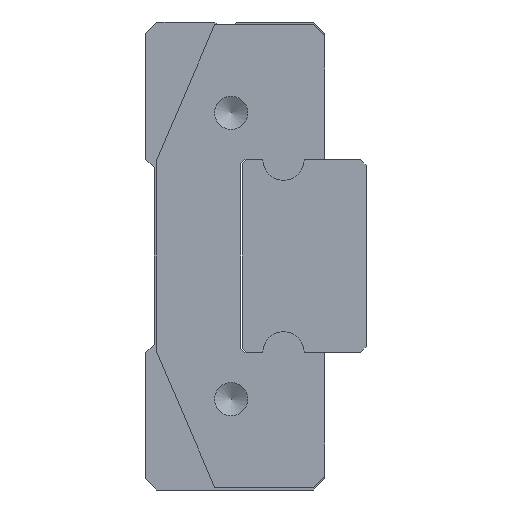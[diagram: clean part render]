
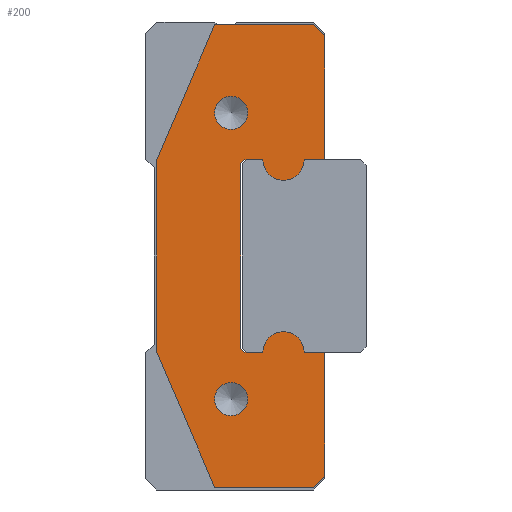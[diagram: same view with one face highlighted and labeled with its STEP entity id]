
A CAD part, left-side view. The second image highlights one B-rep face of the part: STEP entity #200.
In plain terms, the highlighted planar face has unit normal (-1, 0, 0) as drawn and (0, 0, 1) by its records, which use the part's own axes.
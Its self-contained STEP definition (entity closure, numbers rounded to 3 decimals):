
#200 = ADVANCED_FACE( '', ( #456, #457, #458 ), #459, .T. );
#456 = FACE_BOUND( '', #856, .T. );
#457 = FACE_BOUND( '', #857, .T. );
#458 = FACE_OUTER_BOUND( '', #858, .T. );
#459 = PLANE( '', #859 );
#856 = EDGE_LOOP( '', ( #1244 ) );
#857 = EDGE_LOOP( '', ( #1245 ) );
#858 = EDGE_LOOP( '', ( #1246, #1247, #1248, #1249, #1250, #1251, #1252, #1253, #1254, #1255, #1256, #1257, #1258, #1259, #1260, #1261, #1262, #1263 ) );
#859 = AXIS2_PLACEMENT_3D( '', #1264, #1265, #1266 );
#1244 = ORIENTED_EDGE( '', *, *, #2107, .F. );
#1245 = ORIENTED_EDGE( '', *, *, #2108, .F. );
#1246 = ORIENTED_EDGE( '', *, *, #2109, .T. );
#1247 = ORIENTED_EDGE( '', *, *, #2110, .T. );
#1248 = ORIENTED_EDGE( '', *, *, #2111, .T. );
#1249 = ORIENTED_EDGE( '', *, *, #2112, .T. );
#1250 = ORIENTED_EDGE( '', *, *, #2113, .T. );
#1251 = ORIENTED_EDGE( '', *, *, #2114, .T. );
#1252 = ORIENTED_EDGE( '', *, *, #2115, .T. );
#1253 = ORIENTED_EDGE( '', *, *, #2116, .T. );
#1254 = ORIENTED_EDGE( '', *, *, #2117, .T. );
#1255 = ORIENTED_EDGE( '', *, *, #2118, .T. );
#1256 = ORIENTED_EDGE( '', *, *, #2119, .T. );
#1257 = ORIENTED_EDGE( '', *, *, #2120, .T. );
#1258 = ORIENTED_EDGE( '', *, *, #2121, .T. );
#1259 = ORIENTED_EDGE( '', *, *, #2122, .T. );
#1260 = ORIENTED_EDGE( '', *, *, #2123, .T. );
#1261 = ORIENTED_EDGE( '', *, *, #2124, .T. );
#1262 = ORIENTED_EDGE( '', *, *, #2125, .T. );
#1263 = ORIENTED_EDGE( '', *, *, #2126, .T. );
#1264 = CARTESIAN_POINT( '', ( -3.5, 1.5, 0. ) );
#1265 = DIRECTION( '', ( 0., 0., 1. ) );
#1266 = DIRECTION( '', ( 1., 0., 0. ) );
#2107 = EDGE_CURVE( '', #2437, #2437, #2438, .T. );
#2108 = EDGE_CURVE( '', #2439, #2439, #2440, .T. );
#2109 = EDGE_CURVE( '', #2441, #2442, #2443, .T. );
#2110 = EDGE_CURVE( '', #2442, #2444, #2445, .T. );
#2111 = EDGE_CURVE( '', #2444, #2446, #2447, .T. );
#2112 = EDGE_CURVE( '', #2446, #2448, #2449, .T. );
#2113 = EDGE_CURVE( '', #2448, #2450, #2451, .T. );
#2114 = EDGE_CURVE( '', #2450, #2452, #2453, .T. );
#2115 = EDGE_CURVE( '', #2452, #2454, #2455, .T. );
#2116 = EDGE_CURVE( '', #2454, #2456, #2457, .T. );
#2117 = EDGE_CURVE( '', #2456, #2458, #2459, .T. );
#2118 = EDGE_CURVE( '', #2458, #2460, #2461, .T. );
#2119 = EDGE_CURVE( '', #2460, #2462, #2463, .T. );
#2120 = EDGE_CURVE( '', #2462, #2464, #2465, .T. );
#2121 = EDGE_CURVE( '', #2464, #2466, #2467, .T. );
#2122 = EDGE_CURVE( '', #2466, #2468, #2469, .T. );
#2123 = EDGE_CURVE( '', #2468, #2470, #2471, .T. );
#2124 = EDGE_CURVE( '', #2470, #2472, #2473, .T. );
#2125 = EDGE_CURVE( '', #2472, #2474, #2475, .T. );
#2126 = EDGE_CURVE( '', #2474, #2441, #2476, .T. );
#2437 = VERTEX_POINT( '', #2917 );
#2438 = CIRCLE( '', #2918, 0.6 );
#2439 = VERTEX_POINT( '', #2919 );
#2440 = CIRCLE( '', #2920, 0.6 );
#2441 = VERTEX_POINT( '', #2921 );
#2442 = VERTEX_POINT( '', #2922 );
#2443 = LINE( '', #2923, #2924 );
#2444 = VERTEX_POINT( '', #2925 );
#2445 = LINE( '', #2926, #2927 );
#2446 = VERTEX_POINT( '', #2928 );
#2447 = LINE( '', #2929, #2930 );
#2448 = VERTEX_POINT( '', #2931 );
#2449 = LINE( '', #2932, #2933 );
#2450 = VERTEX_POINT( '', #2934 );
#2451 = CIRCLE( '', #2935, 0.75 );
#2452 = VERTEX_POINT( '', #2936 );
#2453 = LINE( '', #2937, #2938 );
#2454 = VERTEX_POINT( '', #2939 );
#2455 = LINE( '', #2940, #2941 );
#2456 = VERTEX_POINT( '', #2942 );
#2457 = LINE( '', #2943, #2944 );
#2458 = VERTEX_POINT( '', #2945 );
#2459 = LINE( '', #2946, #2947 );
#2460 = VERTEX_POINT( '', #2948 );
#2461 = LINE( '', #2949, #2950 );
#2462 = VERTEX_POINT( '', #2951 );
#2463 = CIRCLE( '', #2952, 0.75 );
#2464 = VERTEX_POINT( '', #2953 );
#2465 = LINE( '', #2954, #2955 );
#2466 = VERTEX_POINT( '', #2956 );
#2467 = LINE( '', #2957, #2958 );
#2468 = VERTEX_POINT( '', #2959 );
#2469 = LINE( '', #2960, #2961 );
#2470 = VERTEX_POINT( '', #2962 );
#2471 = LINE( '', #2963, #2964 );
#2472 = VERTEX_POINT( '', #2965 );
#2473 = LINE( '', #2966, #2967 );
#2474 = VERTEX_POINT( '', #2968 );
#2475 = LINE( '', #2969, #2970 );
#2476 = LINE( '', #2971, #2972 );
#2917 = CARTESIAN_POINT( '', ( -4.6, 3.4, 0. ) );
#2918 = AXIS2_PLACEMENT_3D( '', #3544, #3545, #3546 );
#2919 = CARTESIAN_POINT( '', ( 5.8, 3.4, 0. ) );
#2920 = AXIS2_PLACEMENT_3D( '', #3547, #3548, #3549 );
#2921 = CARTESIAN_POINT( '', ( -8.4, 4., 0. ) );
#2922 = CARTESIAN_POINT( '', ( -8.4, 0.4, 0. ) );
#2923 = CARTESIAN_POINT( '', ( -8.4, 4., 0. ) );
#2924 = VECTOR( '', #3550, 1000. );
#2925 = CARTESIAN_POINT( '', ( -8., 0., 0. ) );
#2926 = CARTESIAN_POINT( '', ( -8.4, 0.4, 0. ) );
#2927 = VECTOR( '', #3551, 1000. );
#2928 = CARTESIAN_POINT( '', ( -3.5, 0., 0. ) );
#2929 = CARTESIAN_POINT( '', ( -8., 0., 0. ) );
#2930 = VECTOR( '', #3552, 1000. );
#2931 = CARTESIAN_POINT( '', ( -3.5, 0.75, 0. ) );
#2932 = CARTESIAN_POINT( '', ( -3.5, 0., 0. ) );
#2933 = VECTOR( '', #3553, 1000. );
#2934 = CARTESIAN_POINT( '', ( -3.5, 2.25, 0. ) );
#2935 = AXIS2_PLACEMENT_3D( '', #3554, #3555, #3556 );
#2936 = CARTESIAN_POINT( '', ( -3.5, 2.9, 0. ) );
#2937 = CARTESIAN_POINT( '', ( -3.5, 2.25, 0. ) );
#2938 = VECTOR( '', #3557, 1000. );
#2939 = CARTESIAN_POINT( '', ( -3.35, 3.05, 0. ) );
#2940 = CARTESIAN_POINT( '', ( -3.5, 2.9, 0. ) );
#2941 = VECTOR( '', #3558, 1000. );
#2942 = CARTESIAN_POINT( '', ( 3.35, 3.05, 0. ) );
#2943 = CARTESIAN_POINT( '', ( -3.35, 3.05, 0. ) );
#2944 = VECTOR( '', #3559, 1000. );
#2945 = CARTESIAN_POINT( '', ( 3.5, 2.9, 0. ) );
#2946 = CARTESIAN_POINT( '', ( 3.35, 3.05, 0. ) );
#2947 = VECTOR( '', #3560, 1000. );
#2948 = CARTESIAN_POINT( '', ( 3.5, 2.25, 0. ) );
#2949 = CARTESIAN_POINT( '', ( 3.5, 2.9, 0. ) );
#2950 = VECTOR( '', #3561, 1000. );
#2951 = CARTESIAN_POINT( '', ( 3.5, 0.75, 0. ) );
#2952 = AXIS2_PLACEMENT_3D( '', #3562, #3563, #3564 );
#2953 = CARTESIAN_POINT( '', ( 3.5, 0., 0. ) );
#2954 = CARTESIAN_POINT( '', ( 3.5, 0.75, 0. ) );
#2955 = VECTOR( '', #3565, 1000. );
#2956 = CARTESIAN_POINT( '', ( 8., 0., 0. ) );
#2957 = CARTESIAN_POINT( '', ( 3.5, 0., 0. ) );
#2958 = VECTOR( '', #3566, 1000. );
#2959 = CARTESIAN_POINT( '', ( 8.4, 0.4, 0. ) );
#2960 = CARTESIAN_POINT( '', ( 8., 0., 0. ) );
#2961 = VECTOR( '', #3567, 1000. );
#2962 = CARTESIAN_POINT( '', ( 8.4, 4., 0. ) );
#2963 = CARTESIAN_POINT( '', ( 8.4, 0.4, 0. ) );
#2964 = VECTOR( '', #3568, 1000. );
#2965 = CARTESIAN_POINT( '', ( 3.5, 6.1, 0. ) );
#2966 = CARTESIAN_POINT( '', ( 8.4, 4., 0. ) );
#2967 = VECTOR( '', #3569, 1000. );
#2968 = CARTESIAN_POINT( '', ( -3.5, 6.1, 0. ) );
#2969 = CARTESIAN_POINT( '', ( 3.5, 6.1, 0. ) );
#2970 = VECTOR( '', #3570, 1000. );
#2971 = CARTESIAN_POINT( '', ( -3.5, 6.1, 0. ) );
#2972 = VECTOR( '', #3571, 1000. );
#3544 = CARTESIAN_POINT( '', ( -5.2, 3.4, 0. ) );
#3545 = DIRECTION( '', ( 0., 0., 1. ) );
#3546 = DIRECTION( '', ( 1., 0., 0. ) );
#3547 = CARTESIAN_POINT( '', ( 5.2, 3.4, 0. ) );
#3548 = DIRECTION( '', ( 0., 0., 1. ) );
#3549 = DIRECTION( '', ( 1., 0., 0. ) );
#3550 = DIRECTION( '', ( 0., -1., 0. ) );
#3551 = DIRECTION( '', ( 0.707, -0.707, 0. ) );
#3552 = DIRECTION( '', ( 1., 0., 0. ) );
#3553 = DIRECTION( '', ( 0., 1., 0. ) );
#3554 = CARTESIAN_POINT( '', ( -3.5, 1.5, 0. ) );
#3555 = DIRECTION( '', ( 0., 0., 1. ) );
#3556 = DIRECTION( '', ( 1., 0., 0. ) );
#3557 = DIRECTION( '', ( 0., 1., 0. ) );
#3558 = DIRECTION( '', ( 0.707, 0.707, 0. ) );
#3559 = DIRECTION( '', ( 1., 0., 0. ) );
#3560 = DIRECTION( '', ( 0.707, -0.707, 0. ) );
#3561 = DIRECTION( '', ( 0., -1., 0. ) );
#3562 = CARTESIAN_POINT( '', ( 3.5, 1.5, 0. ) );
#3563 = DIRECTION( '', ( 0., 0., 1. ) );
#3564 = DIRECTION( '', ( 1., 0., 0. ) );
#3565 = DIRECTION( '', ( 0., -1., 0. ) );
#3566 = DIRECTION( '', ( 1., 0., 0. ) );
#3567 = DIRECTION( '', ( 0.707, 0.707, 0. ) );
#3568 = DIRECTION( '', ( 0., 1., 0. ) );
#3569 = DIRECTION( '', ( -0.919, 0.394, 0. ) );
#3570 = DIRECTION( '', ( -1., 0., 0. ) );
#3571 = DIRECTION( '', ( -0.919, -0.394, 0. ) );
